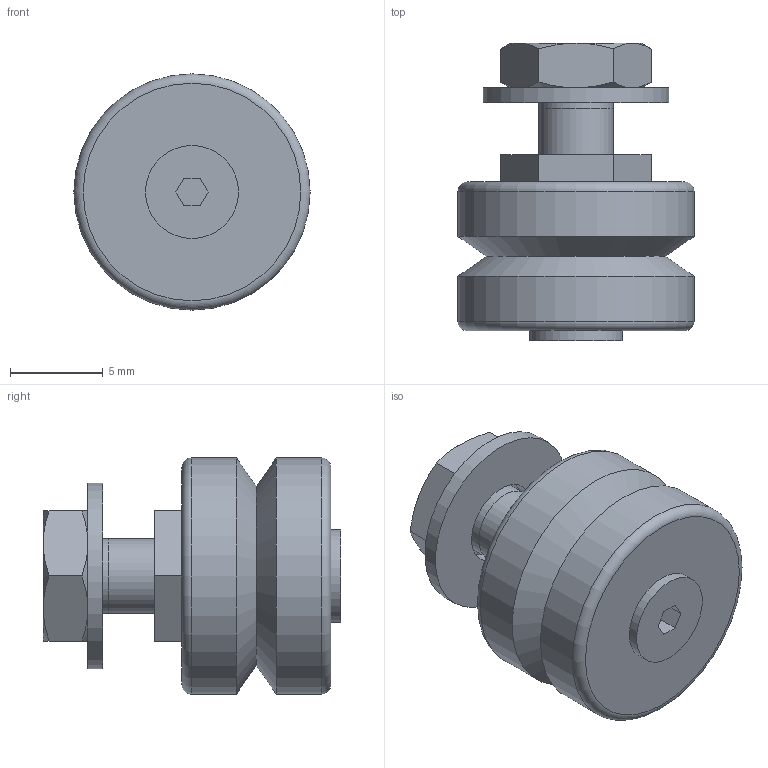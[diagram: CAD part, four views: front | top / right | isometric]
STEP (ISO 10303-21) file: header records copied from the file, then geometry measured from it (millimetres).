
FILE_DESCRIPTION(('STEP AP203'),'1');
FILE_NAME('//192.168.1.1/share/s-4 技術開発/s-4-4_CAD/s-4-4-6_見直し、確認済み/013 修正済み(済)/ジャーナル_TOP/NAS/NAS-13-C.step','2022-03-11T07:42:41',(' '),(' '),'Spatial InterOp 3D',' ',' ');
FILE_SCHEMA(('CONFIG_CONTROL_DESIGN'));
Length unit declared in the file: millimetre
Products named in the file (3): 1; 2; 3
Bounding box: 12.7 x 16 x 12.7 mm (x, y, z)
Volume: 1222.9 mm3; surface area: 1033.7 mm2
Topology: 3 solids, 3 shells, 52 faces, 113 edges, 70 vertices
Faces by surface type: plane 27, cone 14, cylinder 8, torus 2, sphere 1
Full cylindrical faces by diameter (mm): 3.3 x1, 4 x2, 4.5 x1, 5 x1, 10 x1, 12.7 x2
Entity records: 1494 total; most frequent: CARTESIAN_POINT 321, DIRECTION 212, ORIENTED_EDGE 192, EDGE_CURVE 96, AXIS2_PLACEMENT_3D 85, EDGE_LOOP 72, VERTEX_POINT 66, FACE_OUTER_BOUND 62
